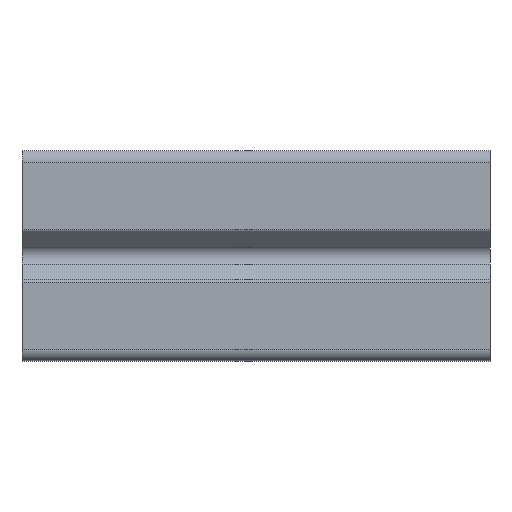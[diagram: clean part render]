
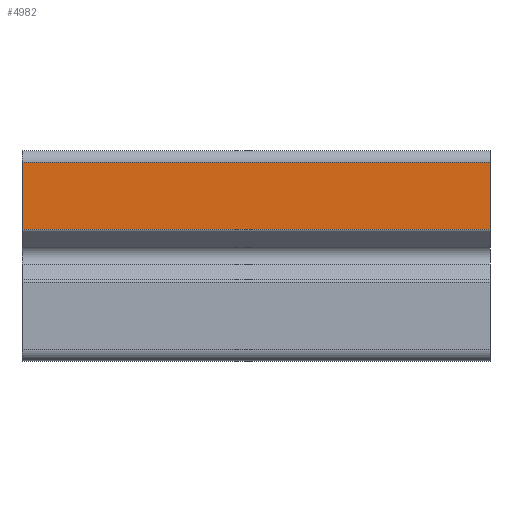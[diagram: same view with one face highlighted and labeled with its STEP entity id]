
A CAD part, top view. The second image highlights one B-rep face of the part: STEP entity #4982.
In plain terms, the highlighted planar face has unit normal (0, 0, 1).
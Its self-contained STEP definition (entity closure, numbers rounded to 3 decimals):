
#14 = EDGE_LOOP ( 'NONE', ( #3525, #3369, #4503, #1730 ) ) ;
#80 = PLANE ( 'NONE',  #4440 ) ;
#502 = LINE ( 'NONE', #4574, #3291 ) ;
#510 = VERTEX_POINT ( 'NONE', #3925 ) ;
#533 = VERTEX_POINT ( 'NONE', #3571 ) ;
#698 = VERTEX_POINT ( 'NONE', #1835 ) ;
#842 = DIRECTION ( 'NONE',  ( 0., 0., -1. ) ) ;
#1209 = VECTOR ( 'NONE', #2259, 1000. ) ;
#1498 = EDGE_CURVE ( 'NONE', #698, #510, #2228, .T. ) ;
#1505 = DIRECTION ( 'NONE',  ( -1., 0., 0. ) ) ;
#1523 = CARTESIAN_POINT ( 'NONE',  ( 59.184, -1799.821, 2829.717 ) ) ;
#1730 = ORIENTED_EDGE ( 'NONE', *, *, #2336, .T. ) ;
#1832 = VECTOR ( 'NONE', #1505, 1000. ) ;
#1835 = CARTESIAN_POINT ( 'NONE',  ( 59.184, -1785.471, 2829.717 ) ) ;
#1839 = CARTESIAN_POINT ( 'NONE',  ( -40.816, -1799.821, 2829.717 ) ) ;
#1910 = DIRECTION ( 'NONE',  ( -1., 0., 0. ) ) ;
#2228 = LINE ( 'NONE', #2665, #1209 ) ;
#2259 = DIRECTION ( 'NONE',  ( 0., -1., 0. ) ) ;
#2318 = LINE ( 'NONE', #4054, #2623 ) ;
#2336 = EDGE_CURVE ( 'NONE', #698, #533, #502, .T. ) ;
#2623 = VECTOR ( 'NONE', #4428, 1000. ) ;
#2665 = CARTESIAN_POINT ( 'NONE',  ( 59.184, -1785.471, 2829.717 ) ) ;
#2834 = VERTEX_POINT ( 'NONE', #1839 ) ;
#2865 = LINE ( 'NONE', #1523, #1832 ) ;
#3189 = DIRECTION ( 'NONE',  ( -1., 0., 0. ) ) ;
#3291 = VECTOR ( 'NONE', #1910, 1000. ) ;
#3369 = ORIENTED_EDGE ( 'NONE', *, *, #3474, .F. ) ;
#3474 = EDGE_CURVE ( 'NONE', #510, #2834, #2865, .T. ) ;
#3525 = ORIENTED_EDGE ( 'NONE', *, *, #4954, .T. ) ;
#3571 = CARTESIAN_POINT ( 'NONE',  ( -40.816, -1785.471, 2829.717 ) ) ;
#3925 = CARTESIAN_POINT ( 'NONE',  ( 59.184, -1799.821, 2829.717 ) ) ;
#4054 = CARTESIAN_POINT ( 'NONE',  ( -40.816, -1785.471, 2829.717 ) ) ;
#4428 = DIRECTION ( 'NONE',  ( 0., -1., 0. ) ) ;
#4440 = AXIS2_PLACEMENT_3D ( 'NONE', #4742, #842, #3189 ) ;
#4503 = ORIENTED_EDGE ( 'NONE', *, *, #1498, .F. ) ;
#4574 = CARTESIAN_POINT ( 'NONE',  ( 59.184, -1785.471, 2829.717 ) ) ;
#4742 = CARTESIAN_POINT ( 'NONE',  ( 59.184, -1785.471, 2829.717 ) ) ;
#4954 = EDGE_CURVE ( 'NONE', #533, #2834, #2318, .T. ) ;
#4974 = FACE_OUTER_BOUND ( 'NONE', #14, .T. ) ;
#4982 = ADVANCED_FACE ( 'NONE', ( #4974 ), #80, .F. ) ;
